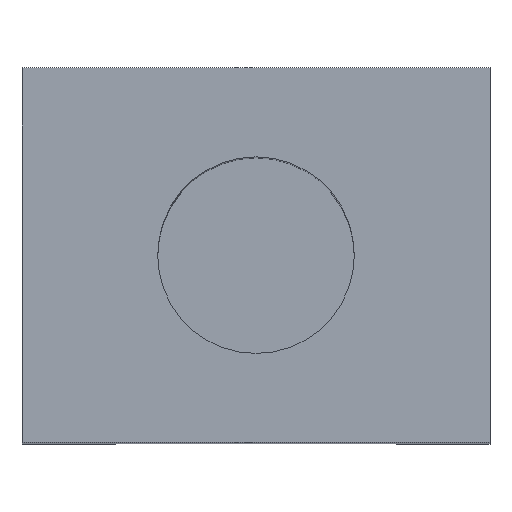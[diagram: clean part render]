
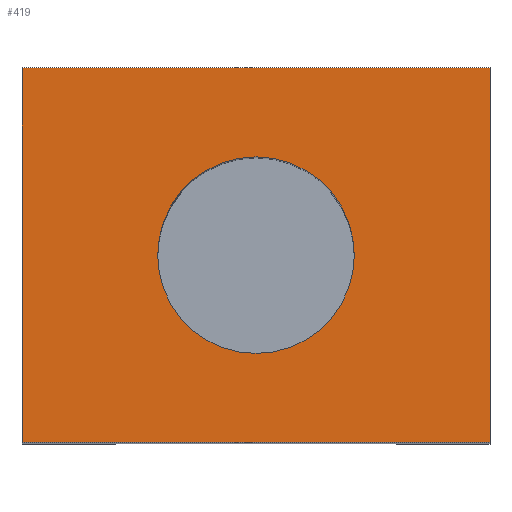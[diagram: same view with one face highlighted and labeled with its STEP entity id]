
A CAD part, top view. The second image highlights one B-rep face of the part: STEP entity #419.
In plain terms, the highlighted planar face has unit normal (0, 0, 1).
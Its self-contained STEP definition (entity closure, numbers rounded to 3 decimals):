
#24 = VERTEX_POINT('',#25);
#25 = CARTESIAN_POINT('',(307.908,-4.,16.));
#32 = PLANE('',#33);
#33 = AXIS2_PLACEMENT_3D('',#34,#35,#36);
#34 = CARTESIAN_POINT('',(307.908,-4.,5.45));
#35 = DIRECTION('',(1.,-0.,-0.));
#36 = DIRECTION('',(0.,0.,-1.));
#44 = PLANE('',#45);
#45 = AXIS2_PLACEMENT_3D('',#46,#47,#48);
#46 = CARTESIAN_POINT('',(307.908,-4.,5.45));
#47 = DIRECTION('',(-0.,-1.,-0.));
#48 = DIRECTION('',(0.,0.,-1.));
#85 = VERTEX_POINT('',#86);
#86 = CARTESIAN_POINT('',(307.908,-8.,16.));
#100 = PLANE('',#101);
#101 = AXIS2_PLACEMENT_3D('',#102,#103,#104);
#102 = CARTESIAN_POINT('',(307.908,-8.,5.45));
#103 = DIRECTION('',(-0.,-1.,-0.));
#104 = DIRECTION('',(0.,0.,-1.));
#112 = EDGE_CURVE('',#24,#85,#113,.T.);
#113 = SURFACE_CURVE('',#114,(#118,#125),.PCURVE_S1.);
#114 = LINE('',#115,#116);
#115 = CARTESIAN_POINT('',(307.908,-4.,16.));
#116 = VECTOR('',#117,1.);
#117 = DIRECTION('',(-0.,-1.,-0.));
#118 = PCURVE('',#32,#119);
#119 = DEFINITIONAL_REPRESENTATION('',(#120),#124);
#120 = LINE('',#121,#122);
#121 = CARTESIAN_POINT('',(-10.55,0.));
#122 = VECTOR('',#123,1.);
#123 = DIRECTION('',(-0.,-1.));
#124 = ( GEOMETRIC_REPRESENTATION_CONTEXT(2) 
PARAMETRIC_REPRESENTATION_CONTEXT() REPRESENTATION_CONTEXT('2D SPACE',''
  ) );
#125 = PCURVE('',#126,#131);
#126 = PLANE('',#127);
#127 = AXIS2_PLACEMENT_3D('',#128,#129,#130);
#128 = CARTESIAN_POINT('',(307.908,-4.,16.));
#129 = DIRECTION('',(-0.,-0.,1.));
#130 = DIRECTION('',(-1.,0.,0.));
#131 = DEFINITIONAL_REPRESENTATION('',(#132),#136);
#132 = LINE('',#133,#134);
#133 = CARTESIAN_POINT('',(-0.,-0.));
#134 = VECTOR('',#135,1.);
#135 = DIRECTION('',(-0.,1.));
#136 = ( GEOMETRIC_REPRESENTATION_CONTEXT(2) 
PARAMETRIC_REPRESENTATION_CONTEXT() REPRESENTATION_CONTEXT('2D SPACE',''
  ) );
#165 = EDGE_CURVE('',#24,#166,#168,.T.);
#166 = VERTEX_POINT('',#167);
#167 = CARTESIAN_POINT('',(312.908,-4.,16.));
#168 = SURFACE_CURVE('',#169,(#173,#180),.PCURVE_S1.);
#169 = LINE('',#170,#171);
#170 = CARTESIAN_POINT('',(307.908,-4.,16.));
#171 = VECTOR('',#172,1.);
#172 = DIRECTION('',(1.,-0.,-0.));
#173 = PCURVE('',#44,#174);
#174 = DEFINITIONAL_REPRESENTATION('',(#175),#179);
#175 = LINE('',#176,#177);
#176 = CARTESIAN_POINT('',(-10.55,0.));
#177 = VECTOR('',#178,1.);
#178 = DIRECTION('',(-0.,1.));
#179 = ( GEOMETRIC_REPRESENTATION_CONTEXT(2) 
PARAMETRIC_REPRESENTATION_CONTEXT() REPRESENTATION_CONTEXT('2D SPACE',''
  ) );
#180 = PCURVE('',#126,#181);
#181 = DEFINITIONAL_REPRESENTATION('',(#182),#186);
#182 = LINE('',#183,#184);
#183 = CARTESIAN_POINT('',(-0.,-0.));
#184 = VECTOR('',#185,1.);
#185 = DIRECTION('',(-1.,0.));
#186 = ( GEOMETRIC_REPRESENTATION_CONTEXT(2) 
PARAMETRIC_REPRESENTATION_CONTEXT() REPRESENTATION_CONTEXT('2D SPACE',''
  ) );
#204 = PLANE('',#205);
#205 = AXIS2_PLACEMENT_3D('',#206,#207,#208);
#206 = CARTESIAN_POINT('',(312.908,-4.,5.45));
#207 = DIRECTION('',(1.,-0.,-0.));
#208 = DIRECTION('',(0.,0.,-1.));
#419 = ADVANCED_FACE('',(#420,#468),#126,.T.);
#420 = FACE_BOUND('',#421,.F.);
#421 = EDGE_LOOP('',(#422,#423,#424,#447));
#422 = ORIENTED_EDGE('',*,*,#112,.F.);
#423 = ORIENTED_EDGE('',*,*,#165,.T.);
#424 = ORIENTED_EDGE('',*,*,#425,.T.);
#425 = EDGE_CURVE('',#166,#426,#428,.T.);
#426 = VERTEX_POINT('',#427);
#427 = CARTESIAN_POINT('',(312.908,-8.,16.));
#428 = SURFACE_CURVE('',#429,(#433,#440),.PCURVE_S1.);
#429 = LINE('',#430,#431);
#430 = CARTESIAN_POINT('',(312.908,-4.,16.));
#431 = VECTOR('',#432,1.);
#432 = DIRECTION('',(-0.,-1.,-0.));
#433 = PCURVE('',#126,#434);
#434 = DEFINITIONAL_REPRESENTATION('',(#435),#439);
#435 = LINE('',#436,#437);
#436 = CARTESIAN_POINT('',(-5.,-0.));
#437 = VECTOR('',#438,1.);
#438 = DIRECTION('',(-0.,1.));
#439 = ( GEOMETRIC_REPRESENTATION_CONTEXT(2) 
PARAMETRIC_REPRESENTATION_CONTEXT() REPRESENTATION_CONTEXT('2D SPACE',''
  ) );
#440 = PCURVE('',#204,#441);
#441 = DEFINITIONAL_REPRESENTATION('',(#442),#446);
#442 = LINE('',#443,#444);
#443 = CARTESIAN_POINT('',(-10.55,0.));
#444 = VECTOR('',#445,1.);
#445 = DIRECTION('',(-0.,-1.));
#446 = ( GEOMETRIC_REPRESENTATION_CONTEXT(2) 
PARAMETRIC_REPRESENTATION_CONTEXT() REPRESENTATION_CONTEXT('2D SPACE',''
  ) );
#447 = ORIENTED_EDGE('',*,*,#448,.F.);
#448 = EDGE_CURVE('',#85,#426,#449,.T.);
#449 = SURFACE_CURVE('',#450,(#454,#461),.PCURVE_S1.);
#450 = LINE('',#451,#452);
#451 = CARTESIAN_POINT('',(307.908,-8.,16.));
#452 = VECTOR('',#453,1.);
#453 = DIRECTION('',(1.,-0.,-0.));
#454 = PCURVE('',#126,#455);
#455 = DEFINITIONAL_REPRESENTATION('',(#456),#460);
#456 = LINE('',#457,#458);
#457 = CARTESIAN_POINT('',(-0.,4.));
#458 = VECTOR('',#459,1.);
#459 = DIRECTION('',(-1.,0.));
#460 = ( GEOMETRIC_REPRESENTATION_CONTEXT(2) 
PARAMETRIC_REPRESENTATION_CONTEXT() REPRESENTATION_CONTEXT('2D SPACE',''
  ) );
#461 = PCURVE('',#100,#462);
#462 = DEFINITIONAL_REPRESENTATION('',(#463),#467);
#463 = LINE('',#464,#465);
#464 = CARTESIAN_POINT('',(-10.55,0.));
#465 = VECTOR('',#466,1.);
#466 = DIRECTION('',(-0.,1.));
#467 = ( GEOMETRIC_REPRESENTATION_CONTEXT(2) 
PARAMETRIC_REPRESENTATION_CONTEXT() REPRESENTATION_CONTEXT('2D SPACE',''
  ) );
#468 = FACE_BOUND('',#469,.F.);
#469 = EDGE_LOOP('',(#470));
#470 = ORIENTED_EDGE('',*,*,#471,.F.);
#471 = EDGE_CURVE('',#472,#472,#474,.T.);
#472 = VERTEX_POINT('',#473);
#473 = CARTESIAN_POINT('',(311.458,-6.,16.));
#474 = SURFACE_CURVE('',#475,(#480,#491),.PCURVE_S1.);
#475 = CIRCLE('',#476,1.05);
#476 = AXIS2_PLACEMENT_3D('',#477,#478,#479);
#477 = CARTESIAN_POINT('',(310.408,-6.,16.));
#478 = DIRECTION('',(0.,0.,-1.));
#479 = DIRECTION('',(1.,-0.,-0.));
#480 = PCURVE('',#126,#481);
#481 = DEFINITIONAL_REPRESENTATION('',(#482),#490);
#482 = ( BOUNDED_CURVE() B_SPLINE_CURVE(2,(#483,#484,#485,#486,#487,#488
,#489),.UNSPECIFIED.,.T.,.F.) B_SPLINE_CURVE_WITH_KNOTS((1,2,2,2,2,1),(
    -2.094,0.,2.094,4.189,6.283,
8.378),.UNSPECIFIED.) CURVE() GEOMETRIC_REPRESENTATION_ITEM() 
RATIONAL_B_SPLINE_CURVE((1.,0.5,1.,0.5,1.,0.5,1.)) REPRESENTATION_ITEM(
  '') );
#483 = CARTESIAN_POINT('',(-3.55,2.));
#484 = CARTESIAN_POINT('',(-3.55,3.819));
#485 = CARTESIAN_POINT('',(-1.975,2.909));
#486 = CARTESIAN_POINT('',(-0.4,2.));
#487 = CARTESIAN_POINT('',(-1.975,1.091));
#488 = CARTESIAN_POINT('',(-3.55,0.181));
#489 = CARTESIAN_POINT('',(-3.55,2.));
#490 = ( GEOMETRIC_REPRESENTATION_CONTEXT(2) 
PARAMETRIC_REPRESENTATION_CONTEXT() REPRESENTATION_CONTEXT('2D SPACE',''
  ) );
#491 = PCURVE('',#492,#497);
#492 = CYLINDRICAL_SURFACE('',#493,1.05);
#493 = AXIS2_PLACEMENT_3D('',#494,#495,#496);
#494 = CARTESIAN_POINT('',(310.408,-6.,9.55));
#495 = DIRECTION('',(-0.,-0.,1.));
#496 = DIRECTION('',(1.,-0.,-0.));
#497 = DEFINITIONAL_REPRESENTATION('',(#498),#502);
#498 = LINE('',#499,#500);
#499 = CARTESIAN_POINT('',(-0.,6.45));
#500 = VECTOR('',#501,1.);
#501 = DIRECTION('',(-1.,0.));
#502 = ( GEOMETRIC_REPRESENTATION_CONTEXT(2) 
PARAMETRIC_REPRESENTATION_CONTEXT() REPRESENTATION_CONTEXT('2D SPACE',''
  ) );
